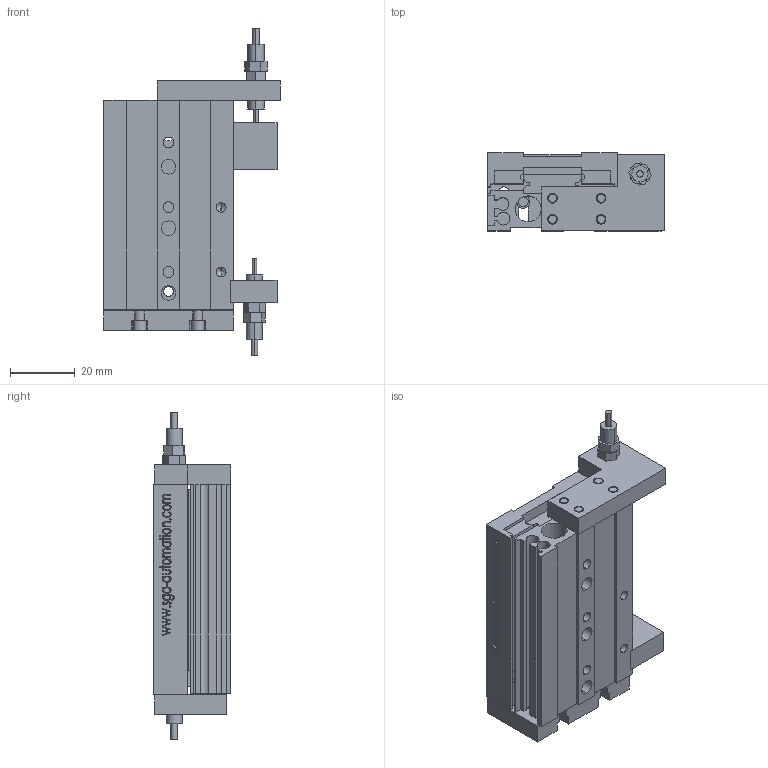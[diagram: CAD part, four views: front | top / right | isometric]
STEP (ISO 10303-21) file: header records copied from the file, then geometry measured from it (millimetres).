
FILE_DESCRIPTION (( 'STEP AP203' ), '1' );
FILE_NAME ('GDX 8-30.STEP', '2013-02-21T15:10:57', ( 'Conseil Régional Haute-Normandie' ), ( 'Conseil Régional Haute-Normandie' ), 'SwSTEP 2.0', 'SolidWorks 2010', '' );
FILE_SCHEMA (( 'CONFIG_CONTROL_DESIGN' ));
Length unit declared in the file: millimetre
Products named in the file (14): Pièce4 GDX 8-30_Default; Pièce6 GDX 8-10_Default; Pièce5 GDX 8-10_Default; Pièce7 GDX 8-10_Default; Pièce3 GDX 8-30_Default; GDX 8-30; Pièce 1 GDX 8-30_Default; Pièce 2 GDX 8-30_Default; Pièce1 GDX 8-10_Default; Pièce2 GDX 8-10_Default; Pièce3 GDX 8-10_Default; Pièce4 GDX 8-10_Default; Pièce8 GDX 8-10_Default; Pièce9 GDX 8-10_Default
Assembly tree (27 placements, depth 2):
  GDX 8-30
    Pièce8 GDX 8-10_Default  x2
    Pièce9 GDX 8-10_Default  x2
    Pièce4 GDX 8-30_Default
    Pièce 2 GDX 8-30_Default
    Pièce7 GDX 8-10_Default
    Pièce 1 GDX 8-30_Default
    Pièce1 GDX 8-10_Default
    Pièce6 GDX 8-10_Default  x8
    Pièce5 GDX 8-10_Default  x4
    Pièce2 GDX 8-10_Default
    Pièce3 GDX 8-10_Default
    Pièce4 GDX 8-10_Default  x2
    Pièce3 GDX 8-30_Default  x2
Bounding box: 54.5 x 24 x 101.24 mm (x, y, z)
Volume: 54766.5 mm3; surface area: 39076.7 mm2
Topology: 27 solids, 27 shells, 728 faces, 1842 edges, 1204 vertices
Faces by surface type: plane 381, cylinder 186, bspline 133, cone 28
Entity records: 30452 total; most frequent: CARTESIAN_POINT 14154, ORIENTED_EDGE 3148, DIRECTION 2580, EDGE_CURVE 1574, VERTEX_POINT 1044, LINE 1044, VECTOR 1044, AXIS2_PLACEMENT_3D 768
